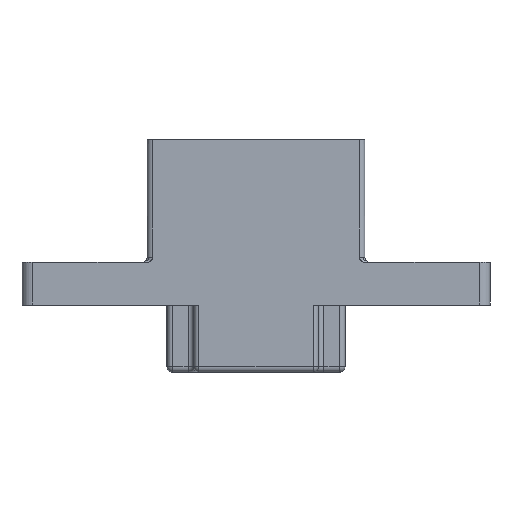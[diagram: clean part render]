
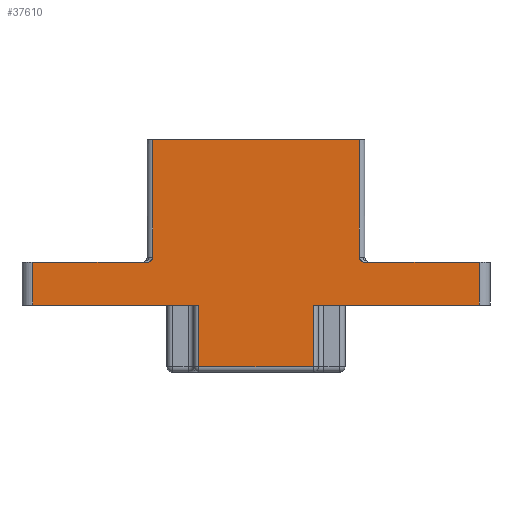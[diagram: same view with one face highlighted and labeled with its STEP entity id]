
A CAD part, front view. The second image highlights one B-rep face of the part: STEP entity #37610.
In plain terms, the highlighted planar face has unit normal (0, -1, 0).
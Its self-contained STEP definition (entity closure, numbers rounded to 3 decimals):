
#130=CARTESIAN_POINT('',(-107.974,104.856,7.55));
#140=VERTEX_POINT('',#130);
#18630=CARTESIAN_POINT('',(-92.374,104.856,1.75))
;
#18640=VERTEX_POINT('',#18630);
#18670=CARTESIAN_POINT('',(0.,104.856,1.75));
#18680=DIRECTION('',(-1.,0.,0.));
#18690=VECTOR('',#18680,1.);
#18700=LINE('',#18670,#18690);
#18710=CARTESIAN_POINT('',(-107.974,104.856,1.75))
;
#18720=VERTEX_POINT('',#18710);
#18730=EDGE_CURVE('',#18640,#18720,#18700,.T.);
#30210=CARTESIAN_POINT('',(-103.124,104.856,-2.25));
#30220=VERTEX_POINT('',#30210);
#30460=CARTESIAN_POINT('',(-103.624,104.856,-2.75));
#30470=VERTEX_POINT('',#30460);
#30500=CARTESIAN_POINT('',(-102.624,105.356,-2.25));
#30510=CARTESIAN_POINT('',(-102.624,105.225,-2.25));
#30520=CARTESIAN_POINT('',(-102.671,105.099,
-2.25));
#30530=CARTESIAN_POINT('',(-102.756,104.988,
-2.25));
#30540=CARTESIAN_POINT('',(-102.867,104.903,
-2.25));
#30550=CARTESIAN_POINT('',(-102.993,104.856,-2.25));
#30560=CARTESIAN_POINT('',(-103.124,104.856,-2.25));
#30570=CARTESIAN_POINT('',(-103.255,104.856,-2.25));
#30580=CARTESIAN_POINT('',(-103.381,104.856,
-2.298));
#30590=CARTESIAN_POINT('',(-103.492,104.856,
-2.382));
#30600=CARTESIAN_POINT('',(-103.576,104.856,
-2.493));
#30610=CARTESIAN_POINT('',(-103.624,104.856,-2.619));
#30620=CARTESIAN_POINT('',(-103.624,104.856,-2.75));
#30630=B_SPLINE_CURVE_WITH_KNOTS('',6,(#30500,#30510,#30520,#30530,
#30540,#30550,#30560,#30570,#30580,#30590,#30600,#30610,#30620),
.UNSPECIFIED.,.F.,.F.,(7,6,7),(0.,0.5,1.),.UNSPECIFIED.);
#30640=EDGE_CURVE('',#30220,#30470,#30630,.T.);
#34600=CARTESIAN_POINT('',(-103.624,104.856,-13.75));
#34610=VERTEX_POINT('',#34600);
#34640=CARTESIAN_POINT('',(-103.624,104.856,0.));
#34650=DIRECTION('',(0.,0.,1.));
#34660=VECTOR('',#34650,1.);
#34670=LINE('',#34640,#34660);
#34680=EDGE_CURVE('',#34610,#30470,#34670,.T.);
#36590=CARTESIAN_POINT('',(-171.074,104.856,8.05));
#36600=DIRECTION('',(-0.,1.,0.));
#36610=DIRECTION('',(1.,0.,0.));
#36620=AXIS2_PLACEMENT_3D('',#36590,#36600,#36610);
#36630=PLANE('',#36620);
#36640=CARTESIAN_POINT('',(-107.974,104.856,0.));
#36650=DIRECTION('',(0.,0.,-1.));
#36660=VECTOR('',#36650,1.);
#36670=LINE('',#36640,#36660);
#36680=EDGE_CURVE('',#140,#18720,#36670,.T.);
#36690=ORIENTED_EDGE('',*,*,#36680,.F.);
#36700=ORIENTED_EDGE('',*,*,#18730,.T.);
#36710=CARTESIAN_POINT('',(-92.374,104.856,0.05
));
#36720=DIRECTION('',(0.,0.,1.));
#36730=VECTOR('',#36720,1.);
#36740=LINE('',#36710,#36730);
#36750=CARTESIAN_POINT('',(-92.374,104.856,-2.25));
#36760=VERTEX_POINT('',#36750);
#36770=EDGE_CURVE('',#36760,#18640,#36740,.T.);
#36780=ORIENTED_EDGE('',*,*,#36770,.T.);
#36790=CARTESIAN_POINT('',(1.5,104.856,-2.25));
#36800=DIRECTION('',(-1.,0.,0.));
#36810=VECTOR('',#36800,1.);
#36820=LINE('',#36790,#36810);
#36830=EDGE_CURVE('',#36760,#30220,#36820,.T.);
#36840=ORIENTED_EDGE('',*,*,#36830,.F.);
#36850=ORIENTED_EDGE('',*,*,#30640,.F.);
#36860=ORIENTED_EDGE('',*,*,#34680,.T.);
#36870=CARTESIAN_POINT('',(6.,104.856,-13.75));
#36880=DIRECTION('',(1.,0.,0.));
#36890=VECTOR('',#36880,1.);
#36900=LINE('',#36870,#36890);
#36910=CARTESIAN_POINT('',(-123.024,104.856,-13.75));
#36920=VERTEX_POINT('',#36910);
#36930=EDGE_CURVE('',#36920,#34610,#36900,.T.);
#36940=ORIENTED_EDGE('',*,*,#36930,.T.);
#36950=CARTESIAN_POINT('',(-123.024,104.856,0.));
#36960=DIRECTION('',(0.,0.,1.));
#36970=VECTOR('',#36960,1.);
#36980=LINE('',#36950,#36970);
#36990=CARTESIAN_POINT('',(-123.024,104.856,-2.75));
#37000=VERTEX_POINT('',#36990);
#37010=EDGE_CURVE('',#36920,#37000,#36980,.T.);
#37020=ORIENTED_EDGE('',*,*,#37010,.F.);
#37030=CARTESIAN_POINT('',(-124.024,105.356,-2.25));
#37040=CARTESIAN_POINT('',(-124.024,105.225,-2.25));
#37050=CARTESIAN_POINT('',(-123.976,105.099,
-2.25));
#37060=CARTESIAN_POINT('',(-123.892,104.988,
-2.25));
#37070=CARTESIAN_POINT('',(-123.781,104.903,
-2.25));
#37080=CARTESIAN_POINT('',(-123.655,104.856,-2.25));
#37090=CARTESIAN_POINT('',(-123.524,104.856,-2.25));
#37100=CARTESIAN_POINT('',(-123.393,104.856,-2.25));
#37110=CARTESIAN_POINT('',(-123.267,104.856,
-2.298));
#37120=CARTESIAN_POINT('',(-123.156,104.856,
-2.382));
#37130=CARTESIAN_POINT('',(-123.071,104.856,
-2.493));
#37140=CARTESIAN_POINT('',(-123.024,104.856,-2.619)
);
#37150=CARTESIAN_POINT('',(-123.024,104.856,-2.75));
#37160=B_SPLINE_CURVE_WITH_KNOTS('',6,(#37030,#37040,#37050,#37060,
#37070,#37080,#37090,#37100,#37110,#37120,#37130,#37140,#37150),
.UNSPECIFIED.,.F.,.F.,(7,6,7),(0.,0.5,1.),.UNSPECIFIED.);
#37170=CARTESIAN_POINT('',(-123.524,104.856,-2.25));
#37180=VERTEX_POINT('',#37170);
#37190=EDGE_CURVE('',#37180,#37000,#37160,.T.);
#37200=ORIENTED_EDGE('',*,*,#37190,.T.);
#37210=CARTESIAN_POINT('',(-228.148,104.856,-2.25));
#37220=DIRECTION('',(1.,0.,0.));
#37230=VECTOR('',#37220,1.);
#37240=LINE('',#37210,#37230);
#37250=CARTESIAN_POINT('',(-134.274,104.856,-2.25));
#37260=VERTEX_POINT('',#37250);
#37270=EDGE_CURVE('',#37260,#37180,#37240,.T.);
#37280=ORIENTED_EDGE('',*,*,#37270,.T.);
#37290=CARTESIAN_POINT('',(-134.274,104.856,0.05
));
#37300=DIRECTION('',(0.,0.,1.));
#37310=VECTOR('',#37300,1.);
#37320=LINE('',#37290,#37310);
#37330=CARTESIAN_POINT('',(-134.274,104.856,1.75))
;
#37340=VERTEX_POINT('',#37330);
#37350=EDGE_CURVE('',#37260,#37340,#37320,.T.);
#37360=ORIENTED_EDGE('',*,*,#37350,.F.);
#37370=CARTESIAN_POINT('',(21.,104.856,1.75));
#37380=DIRECTION('',(1.,0.,0.));
#37390=VECTOR('',#37380,1.);
#37400=LINE('',#37370,#37390);
#37410=CARTESIAN_POINT('',(-118.674,104.856,1.75))
;
#37420=VERTEX_POINT('',#37410);
#37430=EDGE_CURVE('',#37340,#37420,#37400,.T.);
#37440=ORIENTED_EDGE('',*,*,#37430,.F.);
#37450=CARTESIAN_POINT('',(-118.674,104.856,5.))
;
#37460=DIRECTION('',(0.,0.,1.));
#37470=VECTOR('',#37460,1.);
#37480=LINE('',#37450,#37470);
#37490=CARTESIAN_POINT('',(-118.674,104.856,7.55));
#37500=VERTEX_POINT('',#37490);
#37510=EDGE_CURVE('',#37420,#37500,#37480,.T.);
#37520=ORIENTED_EDGE('',*,*,#37510,.F.);
#37530=CARTESIAN_POINT('',(-80.319,104.856,7.55));
#37540=DIRECTION('',(1.,0.,0.));
#37550=VECTOR('',#37540,1.);
#37560=LINE('',#37530,#37550);
#37570=EDGE_CURVE('',#37500,#140,#37560,.T.);
#37580=ORIENTED_EDGE('',*,*,#37570,.F.);
#37590=EDGE_LOOP('',(#37580,#37520,#37440,#37360,#37280,#37200,#37020,
#36940,#36860,#36850,#36840,#36780,#36700,#36690));
#37600=FACE_OUTER_BOUND('',#37590,.T.);
#37610=ADVANCED_FACE('',(#37600),#36630,.F.);
